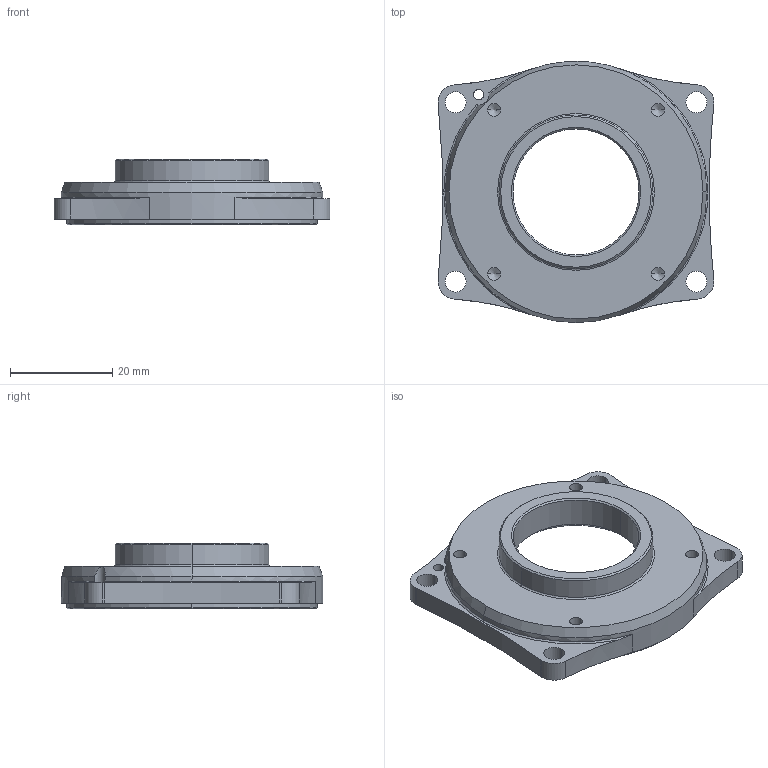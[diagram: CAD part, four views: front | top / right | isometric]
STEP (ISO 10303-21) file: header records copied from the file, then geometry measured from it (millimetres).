
FILE_DESCRIPTION (( 'STEP AP214' ), '1' );
FILE_NAME ('1199_N2C-Mount.STEP', '2019-10-23T12:55:47', ( '' ), ( '' ), 'SwSTEP 2.0', 'SolidWorks 2019', '' );
FILE_SCHEMA (( 'AUTOMOTIVE_DESIGN' ));
Length unit declared in the file: millimetre
Products named in the file (1): 1199_N2C-Mount
Bounding box: 53.82 x 51 x 12.88 mm (x, y, z)
Volume: 9592.1 mm3; surface area: 7026.1 mm2
Topology: 1 solids, 1 shells, 82 faces, 203 edges, 123 vertices
Faces by surface type: cylinder 46, cone 20, torus 8, plane 8
Entity records: 2618 total; most frequent: DIRECTION 472, CARTESIAN_POINT 457, ORIENTED_EDGE 390, AXIS2_PLACEMENT_3D 202, EDGE_CURVE 195, VERTEX_POINT 123, CIRCLE 119, EDGE_LOOP 102
